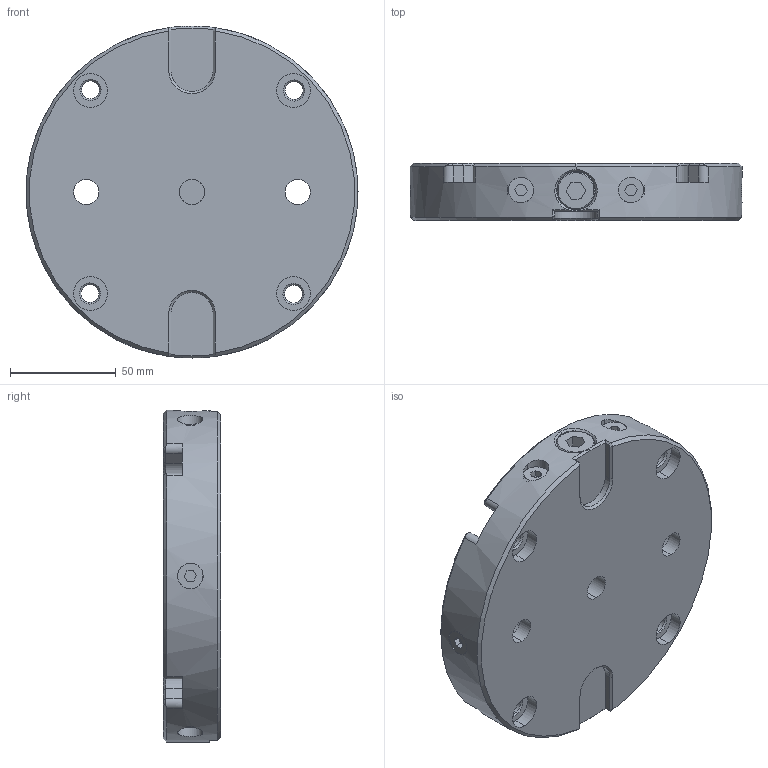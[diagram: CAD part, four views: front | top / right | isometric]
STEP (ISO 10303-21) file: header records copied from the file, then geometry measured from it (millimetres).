
FILE_DESCRIPTION (( 'STEP AP203' ), '1' );
FILE_NAME ('45900.STEP', '2018-10-29T09:55:46', ( '' ), ( '' ), 'SwSTEP 2.0', 'SolidWorks 2015', '' );
FILE_SCHEMA (( 'CONFIG_CONTROL_DESIGN' ));
Length unit declared in the file: millimetre
Products named in the file (1): 45900
Bounding box: 157 x 27 x 157 mm (x, y, z)
Volume: 425850.4 mm3; surface area: 80057.5 mm2
Topology: 8 solids, 8 shells, 315 faces, 750 edges, 458 vertices
Faces by surface type: plane 115, cylinder 113, cone 73, torus 8, bspline 6
Entity records: 11102 total; most frequent: CARTESIAN_POINT 3744, DIRECTION 1522, ORIENTED_EDGE 1500, EDGE_CURVE 750, AXIS2_PLACEMENT_3D 573, VERTEX_POINT 458, VECTOR 376, LINE 376
